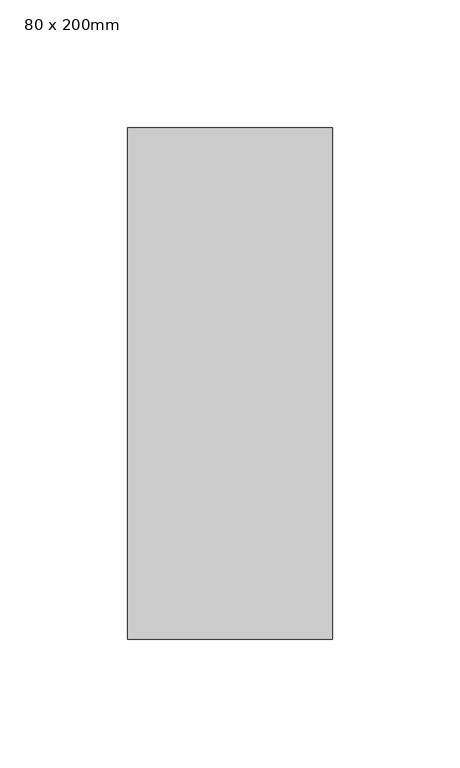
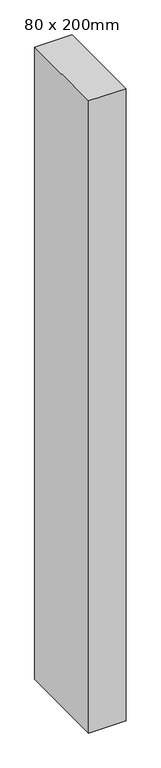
"""IFC4 building model written with IfcOpenShell, lengths in millimetres: member geometry, 矩形竖梃 : 80 x 200mm."""

from ifc_helpers import new_model, si_unit, frame, origin, place, context, project, spatial, polyline, outline, extrude, source, transform, mapped, element, save


def member_80_x_200mm_1bd8c9b3(model_context):
    return source(origin(), model_context, "Body", "SweptSolid", [
        extrude(outline(polyline([(0.0, 100.0), (0.0, -100.0), (-80.0, -100.0), (-80.0, 100.0), (0.0, 100.0)])), frame((0.0, 0.0, -1430.0), z_axis=(0.0, 0.0, 1.0), x_axis=(1.0, 0.0, 0.0)), (0.0, 0.0, 1.0), 1430.0),
    ])


if __name__ == "__main__":
    model = new_model("IFC4")
    model_context = context("Model", 3, world=origin())
    ifc_project = project(units=[si_unit("LENGTHUNIT", "METRE", prefix="MILLI")], contexts=[model_context])
    site = spatial("IfcSite", under=ifc_project)
    building = spatial("IfcBuilding", under=site)
    placement = place(None, origin())
    member_80_x_200mm_shape = member_80_x_200mm_1bd8c9b3(model_context)
    element("IfcMember", 1, ObjectType="矩形竖梃 : 80 x 200mm", at=placement, inside=building, context=model_context, shape_type="MappedRepresentation", body=[
        mapped(member_80_x_200mm_shape, transform((0.0, 0.0, 0.0), x_axis=(1.0, 0.0, 0.0), y_axis=(0.0, 1.0, 0.0), z_axis=(0.0, 0.0, 1.0))),
    ])
    save(model, "model.ifc")
